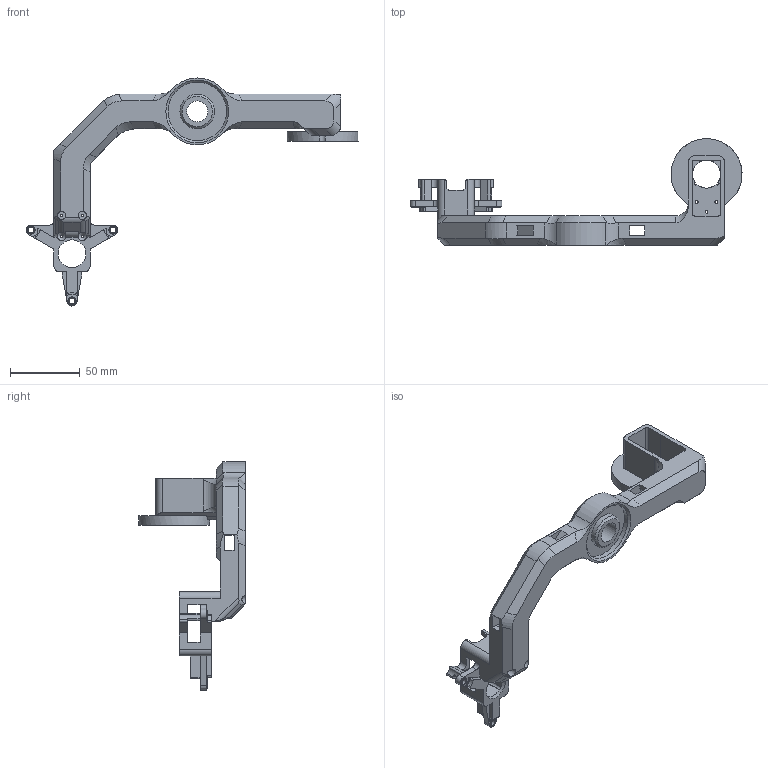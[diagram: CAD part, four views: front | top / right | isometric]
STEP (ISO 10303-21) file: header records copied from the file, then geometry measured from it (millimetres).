
FILE_DESCRIPTION(/* description */ (''),/* implementation_level */ '2;1');
FILE_NAME(/* name */ '3DP_Front_Left x1.step',/* time_stamp */ '2025-11-20T01:03:36+08:00',/* author */ (''),/* organization */ (''),/* preprocessor_version */ 'ST-DEVELOPER v20.1',/* originating_system */ 'Autodesk Translation Framework v14.21.0.0',/* authorisation */ '');
FILE_SCHEMA (('AUTOMOTIVE_DESIGN { 1 0 10303 214 3 1 1 }'));
Length unit declared in the file: millimetre
Products named in the file (1): 3DP_Front_Left x1
Bounding box: 238.53 x 76.5 x 163.89 mm (x, y, z)
Volume: 146909 mm3; surface area: 53766.4 mm2
Topology: 1 solids, 1 shells, 312 faces, 925 edges, 605 vertices
Faces by surface type: plane 159, cylinder 123, cone 21, bspline 9
Full cylindrical faces by diameter (mm): 1.98 x1, 2 x6, 4 x3, 6 x2, 15 x1, 20 x1, 21 x1, 24.9 x1, 42.1 x1
Entity records: 11040 total; most frequent: CARTESIAN_POINT 2427, ORIENTED_EDGE 1850, DIRECTION 1776, EDGE_CURVE 925, AXIS2_PLACEMENT_3D 612, VERTEX_POINT 605, LINE 552, VECTOR 552
